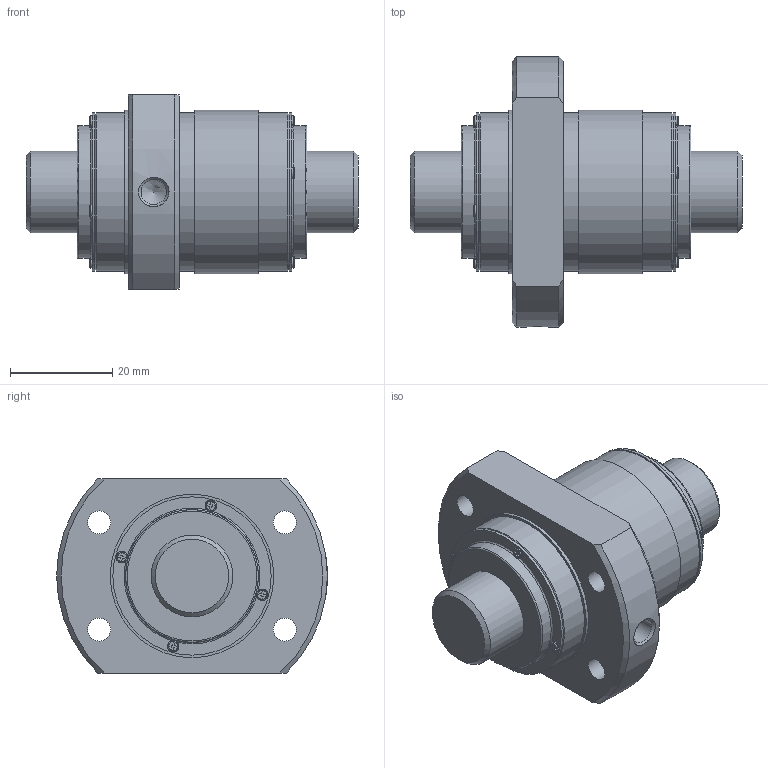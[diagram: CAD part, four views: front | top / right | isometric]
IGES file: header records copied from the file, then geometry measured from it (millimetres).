
Start section: Data from Parasolid IGES Translator 26.0.171, Copyright(c) 2006 Siemens PLM Software. All Rights Reserved.
Global section: file name: BLK1616-7.2ZZ+65LC7T_000.igs; native system: By Siemens PLM Incorporated; preprocessor: XPlus GENERIC/IGES 26.0.171; author: Noname; organization: Noname; date: 20250611.062608; units: millimetre
Bounding box: 65 x 53 x 38 mm (x, y, z)
Surface area: 14753.3 mm2 (no closed solid volume)
Topology: 0 solids, 0 shells, 215 faces, 1137 edges, 1070 vertices
Faces by surface type: extrusion 127, revolution 88
